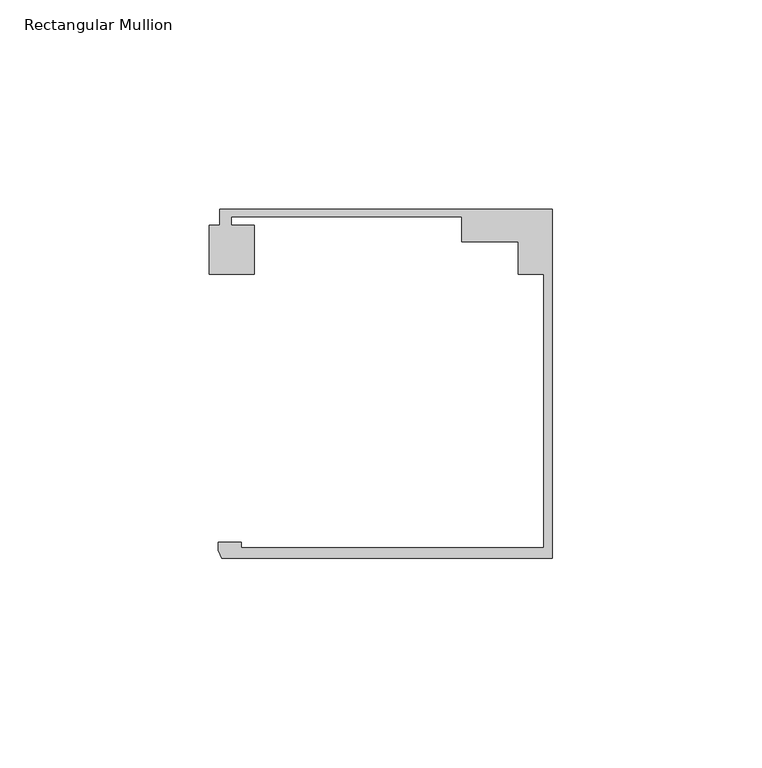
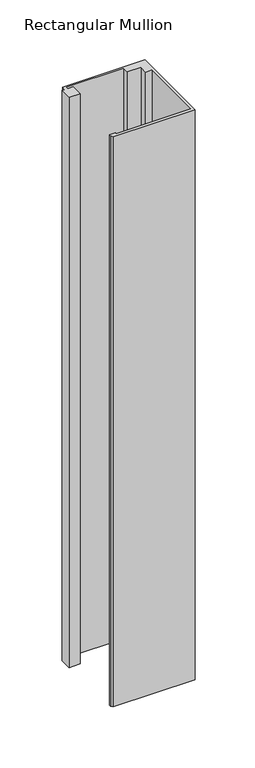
"""IFC4 building model written with IfcOpenShell, lengths in millimetres: member geometry, Rectangular Mullion : Danpal_Airpt_End-Mullion_B1."""

from ifc_helpers import new_model, si_unit, frame, origin, place, context, project, spatial, polyline, outline, extrude, source, transform, mapped, element, save


def rectangular_mullion_8d96c27a(model_context):
    return source(origin(), model_context, "Body", "SweptSolid", [
        extrude(outline(polyline([(-74.2474668, -74.9940824), (-2.0000001, -74.9940824), (-2.0000001, -9.7188964), (-8.1, -9.7188964), (-8.1, -1.8818054), (-21.5478166, -1.8818054), (-21.5478166, 4.0051512), (-76.6478166, 4.0051512), (-76.6478166, 2.0051513), (-71.1433532, 2.0051513), (-71.1433532, -9.6875514), (-81.8592324, -9.6875514), (-81.8592324, 2.0051513), (-79.3474874, 2.0051513), (-79.3474874, 5.8051514), (0.0, 5.8051514), (0.0, -77.4940825), (-78.8515009, -77.4940825), (-79.7784606, -75.5472671), (-79.7784606, -73.6940824), (-74.2474668, -73.6940824), (-74.2474668, -74.9940824)])), frame((0.0, 0.0, -580.058414), z_axis=(0.0, 0.0, 1.0), x_axis=(1.0, 0.0, 0.0)), (0.0, 0.0, 1.0), 580.058414),
    ])


if __name__ == "__main__":
    model = new_model("IFC4")
    model_context = context("Model", 3, world=origin())
    ifc_project = project(units=[si_unit("LENGTHUNIT", "METRE", prefix="MILLI")], contexts=[model_context])
    site = spatial("IfcSite", under=ifc_project)
    building = spatial("IfcBuilding", under=site)
    placement = place(None, origin())
    rectangular_mullion_shape = rectangular_mullion_8d96c27a(model_context)
    element("IfcMember", 1, ObjectType="Rectangular Mullion : Danpal_Airpt_End-Mullion_B1", at=placement, inside=building, context=model_context, shape_type="MappedRepresentation", body=[
        mapped(rectangular_mullion_shape, transform((0.0, 0.0, 0.0), x_axis=(1.0, 0.0, 0.0), y_axis=(0.0, 1.0, 0.0), z_axis=(0.0, 0.0, 1.0))),
    ])
    save(model, "model.ifc")
